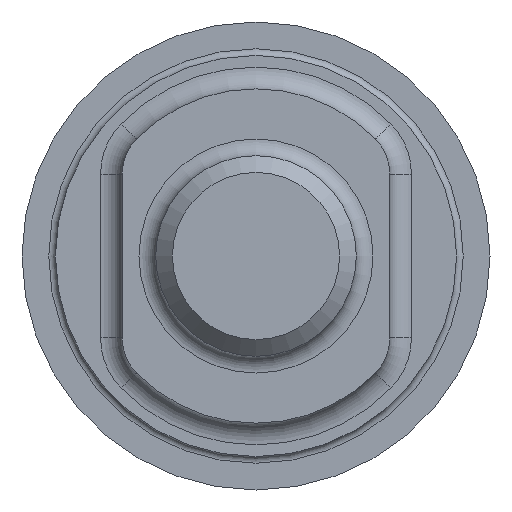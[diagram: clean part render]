
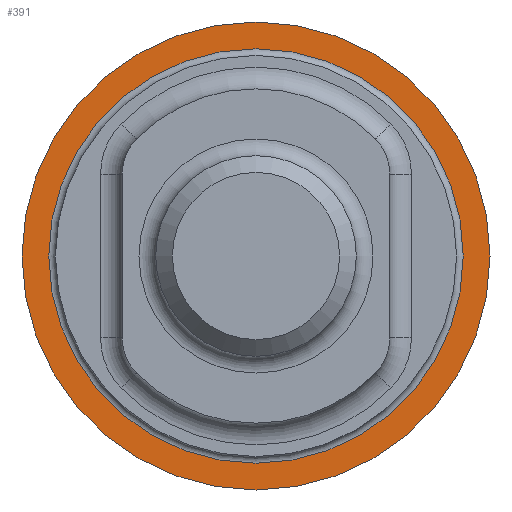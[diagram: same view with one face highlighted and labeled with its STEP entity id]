
A CAD part, front view. The second image highlights one B-rep face of the part: STEP entity #391.
In plain terms, the highlighted planar face has unit normal (0, -1, 0).
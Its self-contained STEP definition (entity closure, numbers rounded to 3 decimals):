
#247=FACE_BOUND('',#711,.T.);
#248=FACE_BOUND('',#712,.T.);
#283=PLANE('',#2419);
#391=ADVANCED_FACE('',(#247,#248),#283,.F.);
#711=EDGE_LOOP('',(#1436));
#712=EDGE_LOOP('',(#1437));
#875=CIRCLE('',#2417,6.2);
#876=CIRCLE('',#2418,7.);
#1436=ORIENTED_EDGE('',*,*,#2005,.T.);
#1437=ORIENTED_EDGE('',*,*,#2006,.T.);
#1706=VERTEX_POINT('',#4157);
#1707=VERTEX_POINT('',#4159);
#2005=EDGE_CURVE('',#1706,#1706,#875,.T.);
#2006=EDGE_CURVE('',#1707,#1707,#876,.T.);
#2417=AXIS2_PLACEMENT_3D('',#4156,#3003,#3004);
#2418=AXIS2_PLACEMENT_3D('',#4158,#3005,#3006);
#2419=AXIS2_PLACEMENT_3D('',#4160,#3007,#3008);
#3003=DIRECTION('',(0.,1.,0.));
#3004=DIRECTION('',(0.,0.,1.));
#3005=DIRECTION('',(0.,-1.,0.));
#3006=DIRECTION('',(0.,0.,-1.));
#3007=DIRECTION('',(0.,1.,0.));
#3008=DIRECTION('',(0.,0.,1.));
#4156=CARTESIAN_POINT('',(0.,-233.483,0.));
#4157=CARTESIAN_POINT('',(0.,-233.483,6.2));
#4158=CARTESIAN_POINT('',(0.,-233.483,0.));
#4159=CARTESIAN_POINT('',(0.,-233.483,-7.));
#4160=CARTESIAN_POINT('',(0.,-233.483,0.));
